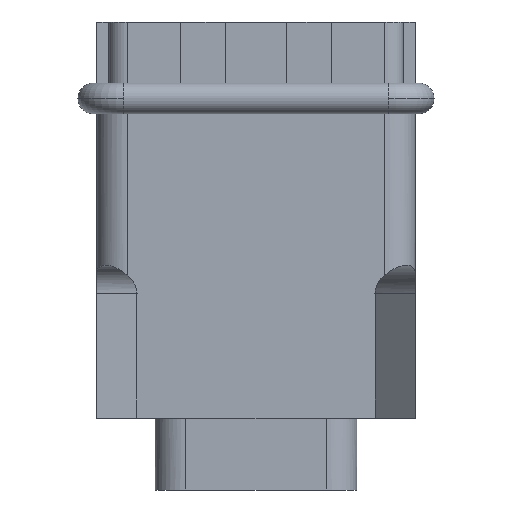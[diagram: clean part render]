
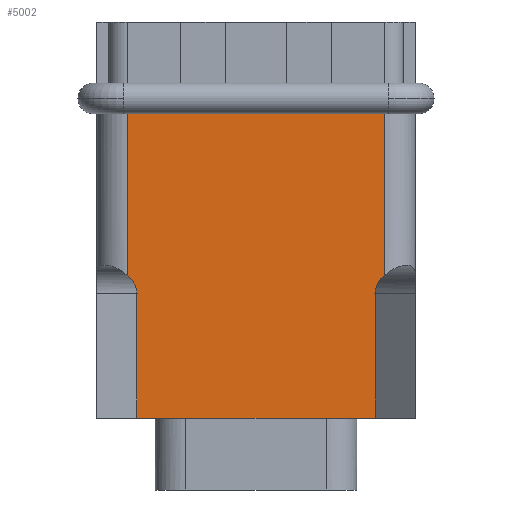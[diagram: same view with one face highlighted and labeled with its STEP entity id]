
A CAD part, left-side view. The second image highlights one B-rep face of the part: STEP entity #5002.
In plain terms, the highlighted planar face has unit normal (-1, 0, 0).
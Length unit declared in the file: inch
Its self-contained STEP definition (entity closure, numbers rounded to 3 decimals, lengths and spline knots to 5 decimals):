
#34 = CARTESIAN_POINT ( 'NONE',  ( -0.4105, -0.33176, -0.23622 ) ) ;
#35 = CARTESIAN_POINT ( 'NONE',  ( -0.4105, -0.33176, -0.65119 ) ) ;
#36 = DIRECTION ( 'NONE',  ( 0., 0., 1. ) ) ;
#37 = VECTOR ( 'NONE', #36, 39.37008 ) ;
#38 = CARTESIAN_POINT ( 'NONE',  ( -0.4105, -0.33176, -1.02 ) ) ;
#39 = LINE ( 'NONE', #38, #37 ) ;
#131 = FACE_OUTER_BOUND ( 'NONE', #5005, .T. ) ;
#160 = DIRECTION ( 'NONE',  ( 0., -1., 0. ) ) ;
#161 = VECTOR ( 'NONE', #160, 39.37008 ) ;
#162 = CARTESIAN_POINT ( 'NONE',  ( -0.4105, 0.19449, -0.23622 ) ) ;
#163 = LINE ( 'NONE', #162, #161 ) ;
#164 = DIRECTION ( 'NONE',  ( 0., 0., 1. ) ) ;
#165 = DIRECTION ( 'NONE',  ( -1., 0., 0. ) ) ;
#166 = CARTESIAN_POINT ( 'NONE',  ( -0.4105, 0.33176, -1.02 ) ) ;
#167 = AXIS2_PLACEMENT_3D ( 'NONE', #166, #165, #164 ) ;
#168 = PLANE ( 'NONE',  #167 ) ;
#199 = DIRECTION ( 'NONE',  ( 0., 0., -1. ) ) ;
#200 = VECTOR ( 'NONE', #199, 39.37008 ) ;
#201 = CARTESIAN_POINT ( 'NONE',  ( -0.4105, 0.30694, -0.6263 ) ) ;
#202 = CARTESIAN_POINT ( 'NONE',  ( -0.4105, 0.30694, -0.6983 ) ) ;
#203 = CARTESIAN_POINT ( 'NONE',  ( -0.4105, 0.30694, -0.68081 ) ) ;
#204 = CARTESIAN_POINT ( 'NONE',  ( -0.4105, 0.31558, -0.66442 ) ) ;
#205 = CARTESIAN_POINT ( 'NONE',  ( -0.4105, 0.33176, -0.65119 ) ) ;
#206 =( BOUNDED_CURVE ( )  B_SPLINE_CURVE ( 3, ( #205, #204, #203, #202 ),
 .UNSPECIFIED., .F., .T. ) 
 B_SPLINE_CURVE_WITH_KNOTS ( ( 4, 4 ),
 ( 2.42835, 3.14159 ),
 .UNSPECIFIED. ) 
 CURVE ( )  GEOMETRIC_REPRESENTATION_ITEM ( )  RATIONAL_B_SPLINE_CURVE ( ( 1., 0.958, 0.958, 1. ) ) 
 REPRESENTATION_ITEM ( '' )  );
#207 = LINE ( 'NONE', #201, #200 ) ;
#208 = CARTESIAN_POINT ( 'NONE',  ( -0.4105, 0.30694, -0.6983 ) ) ;
#348 =( BOUNDED_CURVE ( )  B_SPLINE_CURVE ( 3, ( #395, #394, #393, #392 ),
 .UNSPECIFIED., .F., .F. ) 
 B_SPLINE_CURVE_WITH_KNOTS ( ( 4, 4 ),
 ( 0., 0.71325 ),
 .UNSPECIFIED. ) 
 CURVE ( )  GEOMETRIC_REPRESENTATION_ITEM ( )  RATIONAL_B_SPLINE_CURVE ( ( 1., 0.958, 0.958, 1. ) ) 
 REPRESENTATION_ITEM ( '' )  );
#349 = CARTESIAN_POINT ( 'NONE',  ( -0.4105, -0.30694, -0.6983 ) ) ;
#350 = DIRECTION ( 'NONE',  ( 0., 0., -1. ) ) ;
#351 = VECTOR ( 'NONE', #350, 39.37008 ) ;
#352 = CARTESIAN_POINT ( 'NONE',  ( -0.4105, -0.30694, -0.6263 ) ) ;
#353 = LINE ( 'NONE', #352, #351 ) ;
#392 = CARTESIAN_POINT ( 'NONE',  ( -0.4105, -0.33176, -0.65119 ) ) ;
#393 = CARTESIAN_POINT ( 'NONE',  ( -0.4105, -0.31558, -0.66442 ) ) ;
#394 = CARTESIAN_POINT ( 'NONE',  ( -0.4105, -0.30694, -0.68081 ) ) ;
#395 = CARTESIAN_POINT ( 'NONE',  ( -0.4105, -0.30694, -0.6983 ) ) ;
#4722 = VERTEX_POINT ( 'NONE', #13128 ) ;
#4726 = EDGE_CURVE ( 'NONE', #4728, #4722, #13127, .T. ) ;
#4728 = VERTEX_POINT ( 'NONE', #13123 ) ;
#4866 = VERTEX_POINT ( 'NONE', #13456 ) ;
#4869 = EDGE_CURVE ( 'NONE', #4866, #4871, #13512, .T. ) ;
#4871 = VERTEX_POINT ( 'NONE', #13508 ) ;
#4927 = EDGE_CURVE ( 'NONE', #4929, #4931, #39, .T. ) ;
#4929 = VERTEX_POINT ( 'NONE', #35 ) ;
#4931 = VERTEX_POINT ( 'NONE', #34 ) ;
#5002 = ADVANCED_FACE ( 'NONE', ( #131 ), #168, .T. ) ;
#5005 = EDGE_LOOP ( 'NONE', ( #5006, #5007, #5010, #5013, #5018, #5021, #5124, #5130 ) ) ;
#5006 = ORIENTED_EDGE ( 'NONE', *, *, #4927, .T. ) ;
#5007 = ORIENTED_EDGE ( 'NONE', *, *, #5008, .F. ) ;
#5008 = EDGE_CURVE ( 'NONE', #4871, #4931, #163, .T. ) ;
#5010 = ORIENTED_EDGE ( 'NONE', *, *, #4869, .F. ) ;
#5013 = ORIENTED_EDGE ( 'NONE', *, *, #5014, .T. ) ;
#5014 = EDGE_CURVE ( 'NONE', #4866, #5016, #206, .T. ) ;
#5016 = VERTEX_POINT ( 'NONE', #208 ) ;
#5018 = ORIENTED_EDGE ( 'NONE', *, *, #5019, .T. ) ;
#5019 = EDGE_CURVE ( 'NONE', #5016, #4728, #207, .T. ) ;
#5021 = ORIENTED_EDGE ( 'NONE', *, *, #4726, .T. ) ;
#5124 = ORIENTED_EDGE ( 'NONE', *, *, #5126, .F. ) ;
#5126 = EDGE_CURVE ( 'NONE', #5128, #4722, #353, .T. ) ;
#5128 = VERTEX_POINT ( 'NONE', #349 ) ;
#5130 = ORIENTED_EDGE ( 'NONE', *, *, #5132, .T. ) ;
#5132 = EDGE_CURVE ( 'NONE', #5128, #4929, #348, .T. ) ;
#13123 = CARTESIAN_POINT ( 'NONE',  ( -0.4105, 0.30694, -1.02 ) ) ;
#13124 = DIRECTION ( 'NONE',  ( 0., -1., 0. ) ) ;
#13125 = VECTOR ( 'NONE', #13124, 39.37008 ) ;
#13126 = CARTESIAN_POINT ( 'NONE',  ( -0.4105, 0.33176, -1.02 ) ) ;
#13127 = LINE ( 'NONE', #13126, #13125 ) ;
#13128 = CARTESIAN_POINT ( 'NONE',  ( -0.4105, -0.30694, -1.02 ) ) ;
#13456 = CARTESIAN_POINT ( 'NONE',  ( -0.4105, 0.33176, -0.65119 ) ) ;
#13508 = CARTESIAN_POINT ( 'NONE',  ( -0.4105, 0.33176, -0.23622 ) ) ;
#13509 = DIRECTION ( 'NONE',  ( 0., 0., 1. ) ) ;
#13510 = VECTOR ( 'NONE', #13509, 39.37008 ) ;
#13511 = CARTESIAN_POINT ( 'NONE',  ( -0.4105, 0.33176, -1.02 ) ) ;
#13512 = LINE ( 'NONE', #13511, #13510 ) ;
